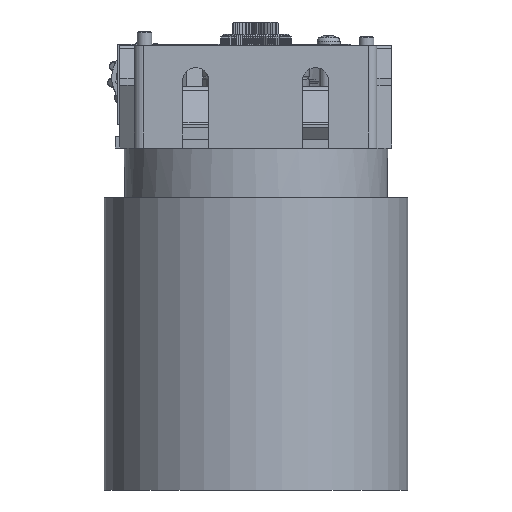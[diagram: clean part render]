
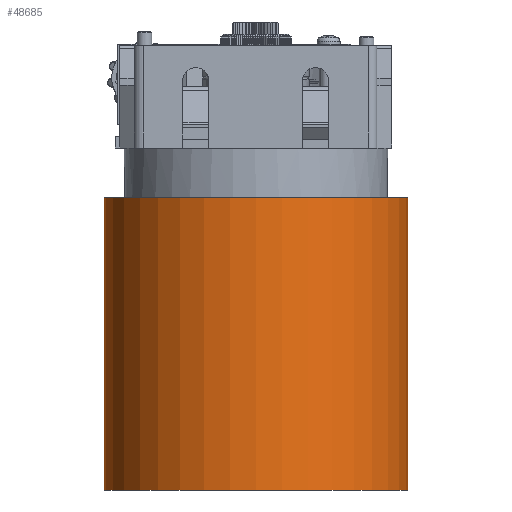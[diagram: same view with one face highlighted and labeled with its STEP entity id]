
A CAD part, front view. The second image highlights one B-rep face of the part: STEP entity #48685.
In plain terms, the highlighted cylindrical face has radius 52 mm (diameter 104 mm), a partial arc.
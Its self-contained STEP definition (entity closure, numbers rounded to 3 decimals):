
#5478 = DIRECTION ( 'NONE',  ( 1., 0., 0. ) ) ;
#5765 = CARTESIAN_POINT ( 'NONE',  ( -51.862, -7.193, -117. ) ) ;
#6426 = CYLINDRICAL_SURFACE ( 'NONE', #7289, 52. ) ;
#6457 = CARTESIAN_POINT ( 'NONE',  ( -51.862, -7.193, -17. ) ) ;
#7289 = AXIS2_PLACEMENT_3D ( 'NONE', #12557, #102482, #5478 ) ;
#11075 = LINE ( 'NONE', #31288, #94670 ) ;
#11374 = VERTEX_POINT ( 'NONE', #5765 ) ;
#12557 = CARTESIAN_POINT ( 'NONE',  ( 0.138, -7.193, -117. ) ) ;
#19111 = EDGE_CURVE ( 'NONE', #11374, #61692, #102353, .T. ) ;
#20363 = EDGE_LOOP ( 'NONE', ( #81041, #103630, #26992, #39266 ) ) ;
#24877 = CARTESIAN_POINT ( 'NONE',  ( 52.138, -7.193, -17. ) ) ;
#26992 = ORIENTED_EDGE ( 'NONE', *, *, #77121, .T. ) ;
#27552 = DIRECTION ( 'NONE',  ( 0., 0., -1. ) ) ;
#31288 = CARTESIAN_POINT ( 'NONE',  ( 52.138, -7.193, -117. ) ) ;
#39266 = ORIENTED_EDGE ( 'NONE', *, *, #55820, .T. ) ;
#43285 = AXIS2_PLACEMENT_3D ( 'NONE', #76026, #27552, #84174 ) ;
#47098 = DIRECTION ( 'NONE',  ( 0., 0., 1. ) ) ;
#48685 = ADVANCED_FACE ( 'NONE', ( #92495 ), #6426, .T. ) ;
#55820 = EDGE_CURVE ( 'NONE', #66554, #61692, #75883, .T. ) ;
#57889 = CARTESIAN_POINT ( 'NONE',  ( 52.138, -7.193, -117. ) ) ;
#59265 = VECTOR ( 'NONE', #87717, 1000. ) ;
#61437 = CIRCLE ( 'NONE', #69591, 52. ) ;
#61692 = VERTEX_POINT ( 'NONE', #6457 ) ;
#66554 = VERTEX_POINT ( 'NONE', #24877 ) ;
#69591 = AXIS2_PLACEMENT_3D ( 'NONE', #95594, #47098, #103727 ) ;
#73508 = EDGE_CURVE ( 'NONE', #11374, #93346, #61437, .T. ) ;
#75883 = CIRCLE ( 'NONE', #43285, 52. ) ;
#76026 = CARTESIAN_POINT ( 'NONE',  ( 0.138, -7.193, -17. ) ) ;
#77121 = EDGE_CURVE ( 'NONE', #93346, #66554, #11075, .T. ) ;
#81041 = ORIENTED_EDGE ( 'NONE', *, *, #19111, .F. ) ;
#84174 = DIRECTION ( 'NONE',  ( 1., 0., 0. ) ) ;
#87717 = DIRECTION ( 'NONE',  ( 0., 0., 1. ) ) ;
#92495 = FACE_OUTER_BOUND ( 'NONE', #20363, .T. ) ;
#93346 = VERTEX_POINT ( 'NONE', #57889 ) ;
#94065 = CARTESIAN_POINT ( 'NONE',  ( -51.862, -7.193, -117. ) ) ;
#94670 = VECTOR ( 'NONE', #104565, 1000. ) ;
#95594 = CARTESIAN_POINT ( 'NONE',  ( 0.138, -7.193, -117. ) ) ;
#102353 = LINE ( 'NONE', #94065, #59265 ) ;
#102482 = DIRECTION ( 'NONE',  ( 0., 0., 1. ) ) ;
#103630 = ORIENTED_EDGE ( 'NONE', *, *, #73508, .T. ) ;
#103727 = DIRECTION ( 'NONE',  ( 1., 0., 0. ) ) ;
#104565 = DIRECTION ( 'NONE',  ( 0., 0., 1. ) ) ;
